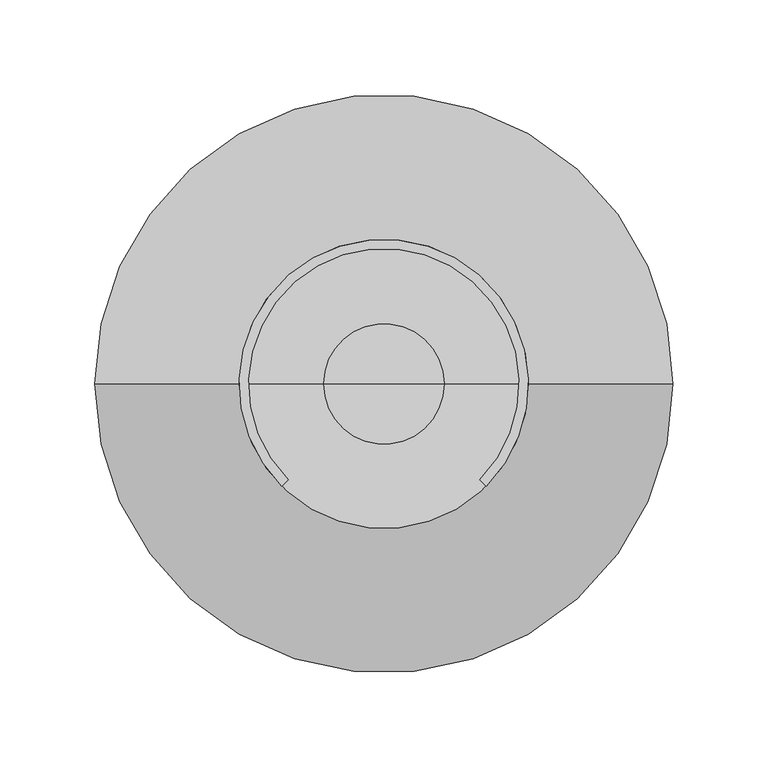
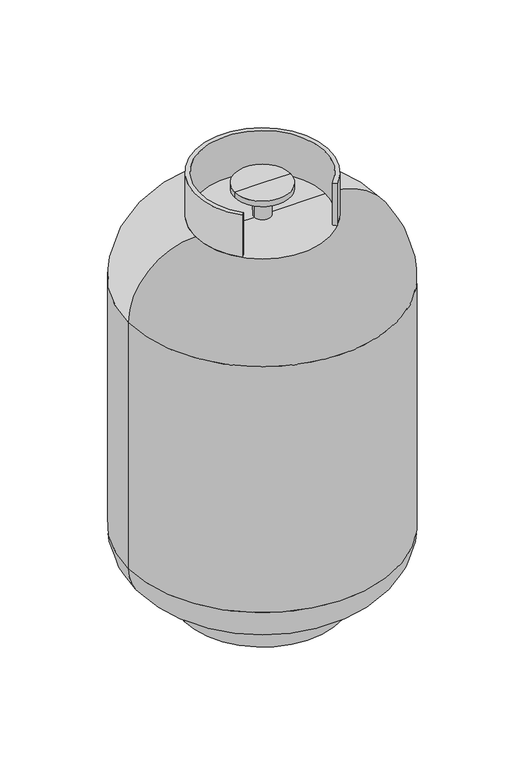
"""IFC4 building model written with IfcOpenShell, lengths in millimetres: proxy geometry, Propane Tank : Propane Tank."""

import ifcopenshell
import ifcopenshell.guid

model = None  # the IFC model being written
_history = None  # IfcOwnerHistory: only IFC2X3 demands one
_inside = {}  # id of a spatial element -> (the spatial element, [elements in it])
_under = {}  # id of a project, library or spatial element -> (it, [spatial elements below it])
_declared = {}  # id of a project -> (the project, [libraries it declares])
_typed = {}  # id of a type object -> (the type object, [elements of that type])
_made_of = {}  # id of a material, layer set ... -> (it, [elements and type objects made of it])


def new_model(schema):
    """Start an empty IFC model of exactly this schema.

    Asked for "IFC4X3", IfcOpenShell would pick the latest addendum, in which some entities
    have other attributes; the version numbers below select the first issue.
    IFC2X3 requires an IfcOwnerHistory on every rooted entity: one is made here for all.
    """
    global model, _history
    if schema == "IFC4X3":
        model = ifcopenshell.file(schema_version=(4, 3, 0, 0))
    else:
        model = ifcopenshell.file(schema=schema)
    _inside.clear()
    _under.clear()
    _declared.clear()
    _typed.clear()
    _made_of.clear()
    _history = None
    if model.schema == "IFC2X3":
        org = make("IfcOrganization", Name="unknown")
        user = make(
            "IfcPersonAndOrganization",
            ThePerson=make("IfcPerson", FamilyName="unknown"),
            TheOrganization=org,
        )
        app = make(
            "IfcApplication",
            ApplicationDeveloper=org,
            Version="unknown",
            ApplicationFullName="unknown",
            ApplicationIdentifier="unknown",
        )
        _history = make(
            "IfcOwnerHistory",
            OwningUser=user,
            OwningApplication=app,
            ChangeAction="ADDED",
            CreationDate=0,
        )
    return model


def make(cls, **values):
    """One entity of the class cls with the attributes given. An attribute that is None is left unset."""
    return model.create_entity(
        cls, **{name: value for name, value in values.items() if value is not None}
    )


def rooted(cls, **values):
    """An entity with a GlobalId (a new one), such as an element, a storey or a relation."""
    return make(cls, GlobalId=ifcopenshell.guid.new(), OwnerHistory=_history, **values)


def si_unit(unit_type, name, prefix=None):
    """IfcSIUnit, for example si_unit("LENGTHUNIT", "METRE", prefix="MILLI")."""
    return make("IfcSIUnit", UnitType=unit_type, Prefix=prefix, Name=name)


def assignment(units):
    """IfcUnitAssignment: the units of a project."""
    return None if units is None else make("IfcUnitAssignment", Units=units)


def point(xyz):
    """IfcCartesianPoint."""
    return None if xyz is None else make("IfcCartesianPoint", Coordinates=xyz)


def direction(xyz):
    """IfcDirection."""
    return None if xyz is None else make("IfcDirection", DirectionRatios=xyz)


def frame(location, z_axis=None, x_axis=None):
    """IfcAxis2Placement3D, a coordinate frame: its origin and axes. An axis left out is left unset."""
    return make(
        "IfcAxis2Placement3D",
        Location=point(location),
        Axis=direction(z_axis),
        RefDirection=direction(x_axis),
    )


def frame_2d(location, x_axis=None):
    """IfcAxis2Placement2D, a coordinate frame in the plane: its origin and x axis."""
    return make(
        "IfcAxis2Placement2D", Location=point(location), RefDirection=direction(x_axis)
    )


def origin():
    """The frame at (0, 0, 0) with its axes left unset."""
    return frame((0.0, 0.0, 0.0))


def origin_2d():
    """The frame at (0, 0) in the plane with its x axis left unset."""
    return frame_2d((0.0, 0.0))


def place(relative_to, where):
    """IfcLocalPlacement: puts the frame where relative to a parent placement (None: the world)."""
    return make(
        "IfcLocalPlacement", PlacementRelTo=relative_to, RelativePlacement=where
    )


def context(
    kind, dimensions, precision=None, world=None, true_north=None, identifier=None
):
    """IfcGeometricRepresentationContext, for example the 3D "Model" context."""
    return make(
        "IfcGeometricRepresentationContext",
        ContextIdentifier=identifier,
        ContextType=kind,
        CoordinateSpaceDimension=dimensions,
        Precision=precision,
        WorldCoordinateSystem=world,
        TrueNorth=true_north,
    )


def project(units=None, contexts=None):
    """IfcProject with its units and contexts."""
    return rooted(
        "IfcProject",
        Name="project",
        RepresentationContexts=contexts,
        UnitsInContext=assignment(units),
    )


def spatial(cls, under=None, at=None, **own):
    """A site, building, storey or space (cls), placed at a placement, below another one or the project."""
    s = rooted(cls, ObjectPlacement=at, **own)
    if under is not None:
        _under.setdefault(under.id(), (under, []))[1].append(s)
    return s


def polyline(points):
    """IfcPolyline through the points."""
    return make("IfcPolyline", Points=[point(p) for p in points])


def circle_curve(where, radius):
    """IfcCircle in the frame where."""
    return make("IfcCircle", Position=where, Radius=radius)


def ellipse_curve(where, semi_axis1, semi_axis2):
    """IfcEllipse in the frame where."""
    return make(
        "IfcEllipse", Position=where, SemiAxis1=semi_axis1, SemiAxis2=semi_axis2
    )


def trimmed(basis, trim1, trim2, sense, master):
    """IfcTrimmedCurve: the piece of a basis curve between two trims."""
    return make(
        "IfcTrimmedCurve",
        BasisCurve=basis,
        Trim1=trim1,
        Trim2=trim2,
        SenseAgreement=sense,
        MasterRepresentation=master,
    )


def segment(curve, same_sense, transition):
    """IfcCompositeCurveSegment."""
    return make(
        "IfcCompositeCurveSegment",
        Transition=transition,
        SameSense=same_sense,
        ParentCurve=curve,
    )


def composite_curve(segments, self_intersect=None):
    """IfcCompositeCurve: segments joined end to end."""
    return make("IfcCompositeCurve", Segments=segments, SelfIntersect=self_intersect)


def outline(outer, holes=None, kind="AREA"):
    """IfcArbitraryClosedProfileDef: a profile drawn as a closed curve; with holes, ...WithVoids."""
    if holes is None:
        return make("IfcArbitraryClosedProfileDef", ProfileType=kind, OuterCurve=outer)
    return make(
        "IfcArbitraryProfileDefWithVoids",
        ProfileType=kind,
        OuterCurve=outer,
        InnerCurves=holes,
    )


def extrude(swept, where, along, depth):
    """IfcExtrudedAreaSolid: the profile swept, set in the frame where, extruded along a direction by depth."""
    return make(
        "IfcExtrudedAreaSolid",
        SweptArea=swept,
        Position=where,
        ExtrudedDirection=direction(along),
        Depth=depth,
    )


def shape(context_of_items, identifier, shape_type, items):
    """IfcShapeRepresentation: the items that make up one representation, for example the "Body"."""
    return make(
        "IfcShapeRepresentation",
        ContextOfItems=context_of_items,
        RepresentationIdentifier=identifier,
        RepresentationType=shape_type,
        Items=items,
    )


def source(mapping_origin, context_of_items, identifier, shape_type, items):
    """IfcRepresentationMap: a shape defined once, which mapped items show again and again."""
    return make(
        "IfcRepresentationMap",
        MappingOrigin=mapping_origin,
        MappedRepresentation=shape(context_of_items, identifier, shape_type, items),
    )


def transform(
    local_origin,
    x_axis=None,
    y_axis=None,
    z_axis=None,
    scale=None,
    scale2=None,
    scale3=None,
    uniform=True,
):
    """IfcCartesianTransformationOperator3D, or its non-uniform kind. x_axis, y_axis, z_axis: its Axis1, 2, 3."""
    if uniform:
        return make(
            "IfcCartesianTransformationOperator3D",
            Axis1=direction(x_axis),
            Axis2=direction(y_axis),
            LocalOrigin=point(local_origin),
            Scale=scale,
            Axis3=direction(z_axis),
        )
    return make(
        "IfcCartesianTransformationOperator3DnonUniform",
        Axis1=direction(x_axis),
        Axis2=direction(y_axis),
        LocalOrigin=point(local_origin),
        Scale=scale,
        Axis3=direction(z_axis),
        Scale2=scale2,
        Scale3=scale3,
    )


def mapped(mapping_source, mapping_target):
    """IfcMappedItem: shows the shape of a source again, moved by a transform."""
    return make(
        "IfcMappedItem", MappingSource=mapping_source, MappingTarget=mapping_target
    )


def made_of(thing, what):
    """Note that an element or type object is made of a material, layer set ...; save() writes the relation."""
    if what is not None:
        _made_of.setdefault(what.id(), (what, []))[1].append(thing)
    return thing


def element(
    cls,
    number,
    at=None,
    inside=None,
    cuts=None,
    type_object=None,
    material=None,
    context=None,
    identifier="Body",
    shape_type=None,
    held_by="IfcProductDefinitionShape",
    body=None,
    shapes=None,
    **own,
):
    """One element of the class cls, such as IfcWall. Its Tag is "e" and its number.

    at: its placement. inside: the storey or other place that contains it. cuts: it is an
    opening in that element (IfcRelVoidsElement). A single representation is given by context,
    identifier, shape_type and body (its items); several are given by shapes. held_by: the class
    of the entity that holds the representations. save() writes the other relations.
    """
    e = rooted(cls, Tag="e%d" % number, ObjectPlacement=at, **own)
    if body is not None:
        shapes = [shape(context, identifier, shape_type, body)]
    if shapes is not None:
        e.Representation = make(held_by, Representations=shapes)
    if inside is not None:
        _inside.setdefault(inside.id(), (inside, []))[1].append(e)
    if cuts is not None:
        rooted(
            "IfcRelVoidsElement", RelatingBuildingElement=cuts, RelatedOpeningElement=e
        )
    if type_object is not None:
        _typed.setdefault(type_object.id(), (type_object, []))[1].append(e)
    return made_of(e, material)


def aggregate(whole, parts):
    """IfcRelAggregates: a whole, such as a stair, and the parts it consists of."""
    return rooted("IfcRelAggregates", RelatingObject=whole, RelatedObjects=parts)


def save(model, path):
    """Write the relations noted so far, then the file.

    IfcRelAggregates (storeys below a building ...), IfcRelContainedInSpatialStructure (elements
    in a storey), IfcRelDefinesByType, IfcRelAssociatesMaterial and IfcRelDeclares: one each for
    every whole, place, type object, material and project.
    """
    for whole, parts in _under.values():
        aggregate(whole, parts)
    for where, things in _inside.values():
        rooted(
            "IfcRelContainedInSpatialStructure",
            RelatedElements=things,
            RelatingStructure=where,
        )
    for kind, things in _typed.values():
        rooted("IfcRelDefinesByType", RelatedObjects=things, RelatingType=kind)
    for what, things in _made_of.values():
        rooted("IfcRelAssociatesMaterial", RelatedObjects=things, RelatingMaterial=what)
    for by, libraries in _declared.values():
        rooted("IfcRelDeclares", RelatingContext=by, RelatedDefinitions=libraries)
    model.write(path)


def plane_surface(at):
    """IfcPlane: the flat surface through the origin of the frame at, square to its z axis."""
    return make("IfcPlane", Position=at)


def cylinder_surface(at, radius):
    """IfcCylindricalSurface: all points at the distance radius from the z axis of the frame at."""
    return make("IfcCylindricalSurface", Position=at, Radius=radius)


def revolved_surface(curve, axis_point, axis_direction):
    """IfcSurfaceOfRevolution: the curve turned about the line through axis_point along axis_direction."""
    return make(
        "IfcSurfaceOfRevolution",
        SweptCurve=make("IfcArbitraryOpenProfileDef", ProfileType="CURVE", Curve=curve),
        AxisPosition=make("IfcAxis1Placement", Location=point(axis_point), Axis=direction(axis_direction)),
    )


def advanced_brep(points, edges, surfaces, faces):
    """IfcAdvancedBrep: a solid bounded by faces that lie on surfaces and meet in shared edges.

    An edge is (start, end): straight between two places in points (the first is 0);
    or (start, end, curve); or (start, end, curve, False) where it runs against its curve.
    A face is (place in surfaces, loops), or (place, loops, False) where it looks against
    its surface's normal. A loop lists edges by number (the first is 1), with a minus sign
    where the edge is run from its end to its start. The first loop is the outer one.
    """
    corners = [point(p) for p in points]
    vertices = [make("IfcVertexPoint", VertexGeometry=c) for c in corners]
    made = []
    for start, end, *more in edges:
        made.append(
            make(
                "IfcEdgeCurve",
                EdgeStart=vertices[start],
                EdgeEnd=vertices[end],
                EdgeGeometry=more[0] if more else make("IfcPolyline", Points=[corners[start], corners[end]]),
                SameSense=more[1] if len(more) > 1 else True,
            )
        )
    hull = []
    for where, loops, *sense in faces:
        bounds = []
        for j, loop in enumerate(loops):
            ring = [make("IfcOrientedEdge", EdgeElement=made[abs(k) - 1], Orientation=k > 0) for k in loop]
            bounds.append(
                make(
                    "IfcFaceOuterBound" if j == 0 else "IfcFaceBound",
                    Bound=make("IfcEdgeLoop", EdgeList=ring),
                    Orientation=True,
                )
            )
        hull.append(make("IfcAdvancedFace", Bounds=bounds, FaceSurface=surfaces[where], SameSense=sense[0] if sense else True))
    return make("IfcAdvancedBrep", Outer=make("IfcClosedShell", CfsFaces=hull))


def specialty_equipment_e586fb58(model_context):
    return source(origin(), model_context, "Body", "SolidModel", [
        advanced_brep(
        [(-88.9, 0.0, 0.0), (88.9, 0.0, 0.0), (0.0, 0.0, 0.0), (-88.9, 0.0, 34.925), (88.9, 0.0, 34.925), (-152.4, 0.0, 381.0), (152.4, 0.0, 381.0), (152.4, 0.0, 85.725), (-152.4, 0.0, 85.725), (0.0, 0.0, 457.2), (76.2, 0.0, 457.2), (-76.2, 0.0, 457.2), (101.6, 0.0, 34.925), (-101.6, 0.0, 34.925)],
        [
            (0, 1, circle_curve(frame((0.0, 0.0, 0.0), z_axis=(0.0, 0.0, -1.0), x_axis=(1.0, 0.0, 0.0)), 88.9)),
            (1, 2),
            (2, 0),
            (1, 0, circle_curve(frame((0.0, 0.0, 0.0), z_axis=(0.0, 0.0, -1.0), x_axis=(1.0, 0.0, 0.0)), 88.9)),
            (3, 4, circle_curve(frame((0.0, 0.0, 34.925), z_axis=(0.0, 0.0, -1.0), x_axis=(1.0, 0.0, 0.0)), 88.9)),
            (4, 1),
            (0, 3),
            (4, 3, circle_curve(frame((0.0, 0.0, 34.925), z_axis=(0.0, 0.0, -1.0), x_axis=(1.0, 0.0, 0.0)), 88.9)),
            (5, 6, circle_curve(frame((0.0, 0.0, 381.0), z_axis=(0.0, 0.0, -1.0), x_axis=(1.0, 0.0, 0.0)), 152.4)),
            (6, 7),
            (7, 8, circle_curve(frame((0.0, 0.0, 85.725), z_axis=(0.0, 0.0, 1.0), x_axis=(1.0, 0.0, 0.0)), 152.4)),
            (8, 5),
            (6, 5, circle_curve(frame((0.0, 0.0, 381.0), z_axis=(0.0, 0.0, -1.0), x_axis=(1.0, 0.0, 0.0)), 152.4)),
            (8, 7, circle_curve(frame((0.0, 0.0, 85.725), z_axis=(0.0, 0.0, 1.0), x_axis=(1.0, 0.0, 0.0)), 152.4)),
            (9, 10),
            (10, 11, circle_curve(frame((0.0, 0.0, 457.2), z_axis=(0.0, 0.0, 1.0), x_axis=(1.0, 0.0, 0.0)), 76.2)),
            (11, 9),
            (11, 10, circle_curve(frame((0.0, 0.0, 457.2), z_axis=(0.0, 0.0, 1.0), x_axis=(1.0, 0.0, 0.0)), 76.2)),
            (7, 12, circle_curve(frame((101.6, 0.0, 85.725), z_axis=(0.0, 1.0, 0.0), x_axis=(1.0, 0.0, 0.0)), 50.8)),
            (12, 13, circle_curve(frame((0.0, 0.0, 34.925), z_axis=(0.0, 0.0, 1.0), x_axis=(1.0, 0.0, 0.0)), 101.6)),
            (13, 8, circle_curve(frame((-101.6, 0.0, 85.725), z_axis=(0.0, 1.0, 0.0), x_axis=(-1.0, 0.0, 0.0)), 50.8)),
            (13, 12, circle_curve(frame((0.0, 0.0, 34.925), z_axis=(0.0, 0.0, 1.0), x_axis=(1.0, 0.0, 0.0)), 101.6)),
            (10, 6, circle_curve(frame((76.2, 0.0, 381.0), z_axis=(0.0, 1.0, 0.0), x_axis=(1.0, 0.0, 0.0)), 76.2)),
            (5, 11, circle_curve(frame((-76.2, 0.0, 381.0), z_axis=(0.0, 1.0, 0.0), x_axis=(-1.0, 0.0, 0.0)), 76.2)),
            (12, 4),
            (3, 13),
        ],
        [
            plane_surface(frame((0.0, 0.0, 0.0), z_axis=(0.0, 0.0, -1.0), x_axis=(1.0, 0.0, 0.0))),
            cylinder_surface(frame((0.0, 0.0, -25.4), z_axis=(0.0, 0.0, 1.0), x_axis=(1.0, 0.0, 0.0)), 88.9),
            cylinder_surface(frame((0.0, 0.0, -25.4), z_axis=(0.0, 0.0, 1.0), x_axis=(1.0, 0.0, 0.0)), 152.4),
            plane_surface(frame((0.0, 0.0, 457.2), z_axis=(0.0, 0.0, 1.0), x_axis=(1.0, 0.0, 0.0))),
            revolved_surface(trimmed(ellipse_curve(frame((101.6, 0.0, 85.725), z_axis=(0.0, -1.0, 0.0), x_axis=(1.0, 0.0, 0.0)), 50.8, 50.8), [point((101.6, 0.0, 34.925))], [point((152.4, 0.0, 85.725))], True, "CARTESIAN"), (0.0, 0.0, -25.4), (0.0, 0.0, 1.0)),
            revolved_surface(trimmed(ellipse_curve(frame((76.2, 0.0, 381.0), z_axis=(0.0, -1.0, 0.0), x_axis=(1.0, 0.0, 0.0)), 76.2, 76.2), [point((152.4, 0.0, 381.0))], [point((76.2, 0.0, 457.2))], True, "CARTESIAN"), (0.0, 0.0, -25.4), (0.0, 0.0, 1.0)),
            plane_surface(frame((0.0, 0.0, 34.925), z_axis=(0.0, 0.0, -1.0), x_axis=(1.0, 0.0, 0.0))),
        ],
        [
            (0, [[1, 2, 3]]),
            (0, [[4, -3, -2]]),
            (1, [[5, 6, -1, 7]]),
            (1, [[8, -7, -4, -6]]),
            (2, [[9, 10, 11, 12]]),
            (2, [[13, -12, 14, -10]]),
            (3, [[15, 16, 17]]),
            (3, [[-17, 18, -15]]),
            (4, [[-11, 19, 20, 21]]),
            (4, [[-14, -21, 22, -19]]),
            (5, [[-16, 23, -9, 24]]),
            (5, [[-18, -24, -13, -23]]),
            (6, [[-20, 25, -5, 26]]),
            (6, [[-22, -26, -8, -25]]),
        ],
    ),
        extrude(outline(composite_curve([segment(trimmed(circle_curve(origin_2d(), 76.2), [point((-53.8815367, -53.8815367))], [point((53.8815367, -53.8815367))], False, "CARTESIAN"), True, "CONTINUOUS"), segment(polyline([(53.8815367, -53.8815367), (50.5139407, -50.5139407)]), True, "CONTINUOUS"), segment(trimmed(circle_curve(origin_2d(), 71.4375), [point((50.5139407, -50.5139407))], [point((-50.5139407, -50.5139407))], True, "CARTESIAN"), True, "CONTINUOUS"), segment(polyline([(-50.5139407, -50.5139407), (-53.8815367, -53.8815367)]), True, "CONTINUOUS")], self_intersect=False)), frame((0.0, 0.0, 457.2), z_axis=(0.0, 0.0, 1.0), x_axis=(1.0, 0.0, 0.0)), (0.0, 0.0, 1.0), 50.8),
        advanced_brep(
        [(-31.75, 0.0, 495.3), (31.75, 0.0, 495.3), (31.75, 0.0, 488.95), (-31.75, 0.0, 488.95), (0.0, 0.0, 495.3), (-9.525, 0.0, 457.2), (9.525, 0.0, 457.2), (0.0, 0.0, 457.2), (-9.525, 0.0, 488.95), (9.525, 0.0, 488.95)],
        [
            (0, 1, circle_curve(frame((0.0, 0.0, 495.3), z_axis=(0.0, 0.0, -1.0), x_axis=(1.0, 0.0, 0.0)), 31.75)),
            (1, 2),
            (2, 3, circle_curve(frame((0.0, 0.0, 488.95), z_axis=(0.0, 0.0, 1.0), x_axis=(1.0, 0.0, 0.0)), 31.75)),
            (3, 0),
            (1, 0, circle_curve(frame((0.0, 0.0, 495.3), z_axis=(0.0, 0.0, -1.0), x_axis=(1.0, 0.0, 0.0)), 31.75)),
            (3, 2, circle_curve(frame((0.0, 0.0, 488.95), z_axis=(0.0, 0.0, 1.0), x_axis=(1.0, 0.0, 0.0)), 31.75)),
            (4, 1),
            (0, 4),
            (5, 6, circle_curve(frame((0.0, 0.0, 457.2), z_axis=(0.0, 0.0, -1.0), x_axis=(1.0, 0.0, 0.0)), 9.525)),
            (6, 7),
            (7, 5),
            (6, 5, circle_curve(frame((0.0, 0.0, 457.2), z_axis=(0.0, 0.0, -1.0), x_axis=(1.0, 0.0, 0.0)), 9.525)),
            (8, 9, circle_curve(frame((0.0, 0.0, 488.95), z_axis=(0.0, 0.0, -1.0), x_axis=(1.0, 0.0, 0.0)), 9.525)),
            (9, 6),
            (5, 8),
            (9, 8, circle_curve(frame((0.0, 0.0, 488.95), z_axis=(0.0, 0.0, -1.0), x_axis=(1.0, 0.0, 0.0)), 9.525)),
            (2, 9),
            (8, 3),
        ],
        [
            cylinder_surface(frame((0.0, 0.0, 431.8), z_axis=(0.0, 0.0, 1.0), x_axis=(1.0, 0.0, 0.0)), 31.75),
            plane_surface(frame((0.0, 0.0, 495.3), z_axis=(0.0, 0.0, 1.0), x_axis=(1.0, 0.0, 0.0))),
            plane_surface(frame((0.0, 0.0, 457.2), z_axis=(0.0, 0.0, -1.0), x_axis=(1.0, 0.0, 0.0))),
            cylinder_surface(frame((0.0, 0.0, 431.8), z_axis=(0.0, 0.0, 1.0), x_axis=(1.0, 0.0, 0.0)), 9.525),
            plane_surface(frame((0.0, 0.0, 488.95), z_axis=(0.0, 0.0, -1.0), x_axis=(1.0, 0.0, 0.0))),
        ],
        [
            (0, [[1, 2, 3, 4]]),
            (0, [[5, -4, 6, -2]]),
            (1, [[7, -1, 8]]),
            (1, [[-8, -5, -7]]),
            (2, [[9, 10, 11]]),
            (2, [[12, -11, -10]]),
            (3, [[13, 14, -9, 15]]),
            (3, [[16, -15, -12, -14]]),
            (4, [[-3, 17, -13, 18]]),
            (4, [[-6, -18, -16, -17]]),
        ],
    ),
    ])


if __name__ == "__main__":
    model = new_model("IFC4")
    model_context = context("Model", 3, world=origin())
    ifc_project = project(units=[si_unit("LENGTHUNIT", "METRE", prefix="MILLI")], contexts=[model_context])
    site = spatial("IfcSite", under=ifc_project)
    building = spatial("IfcBuilding", under=site)
    placement = place(None, origin())
    specialty_equipment_shape = specialty_equipment_e586fb58(model_context)
    element("IfcBuildingElementProxy", 1, Name="Propane Tank : Propane Tank", ObjectType="Propane Tank : Propane Tank", at=placement, inside=building, context=model_context, shape_type="MappedRepresentation", body=[
        mapped(specialty_equipment_shape, transform((0.0, 0.0, 0.0), x_axis=(1.0, 0.0, 0.0), y_axis=(0.0, 1.0, 0.0), z_axis=(0.0, 0.0, 1.0))),
    ])
    save(model, "model.ifc")
